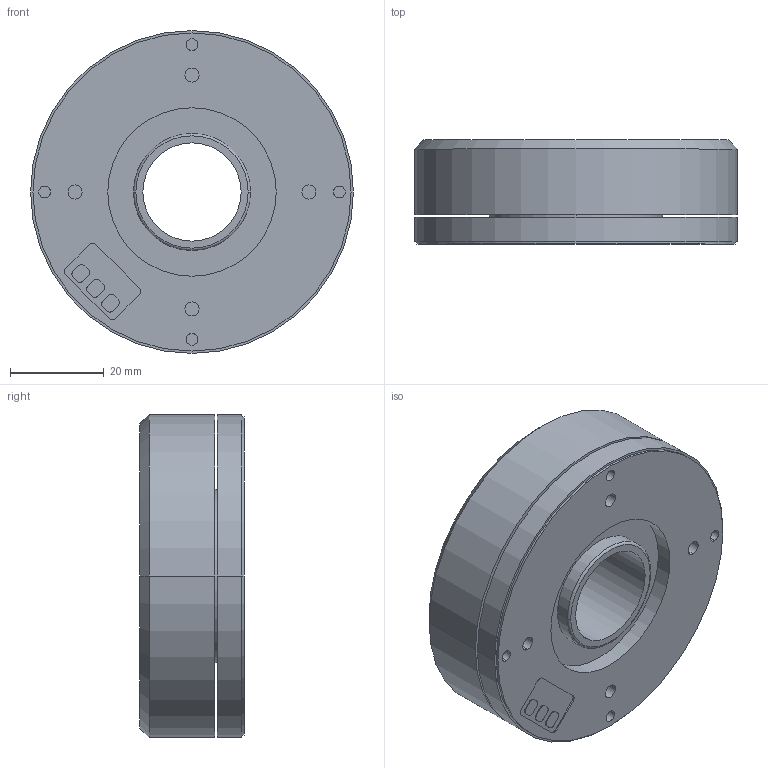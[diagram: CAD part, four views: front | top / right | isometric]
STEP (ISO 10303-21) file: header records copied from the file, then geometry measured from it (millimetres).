
FILE_DESCRIPTION((''),'2;1');
FILE_NAME('GL60','2020-12-14T',('Administrator'),(''),'PRO/ENGINEER BY PARAMETRIC TECHNOLOGY CORPORATION, 2013040','PRO/ENGINEER BY PARAMETRIC TECHNOLOGY CORPORATION, 2013040','');
FILE_SCHEMA(('CONFIG_CONTROL_DESIGN'));
Length unit declared in the file: millimetre
Products named in the file (1): GL60
Bounding box: 69 x 22.3 x 69 mm (x, y, z)
Volume: 71465.2 mm3; surface area: 19089.8 mm2
Topology: 1 solids, 1 shells, 99 faces, 222 edges, 146 vertices
Faces by surface type: cylinder 54, plane 39, cone 4, torus 2
Entity records: 2846 total; most frequent: DIRECTION 536, CARTESIAN_POINT 467, ORIENTED_EDGE 444, EDGE_CURVE 222, AXIS2_PLACEMENT_3D 215, VERTEX_POINT 146, EDGE_LOOP 122, CIRCLE 116
